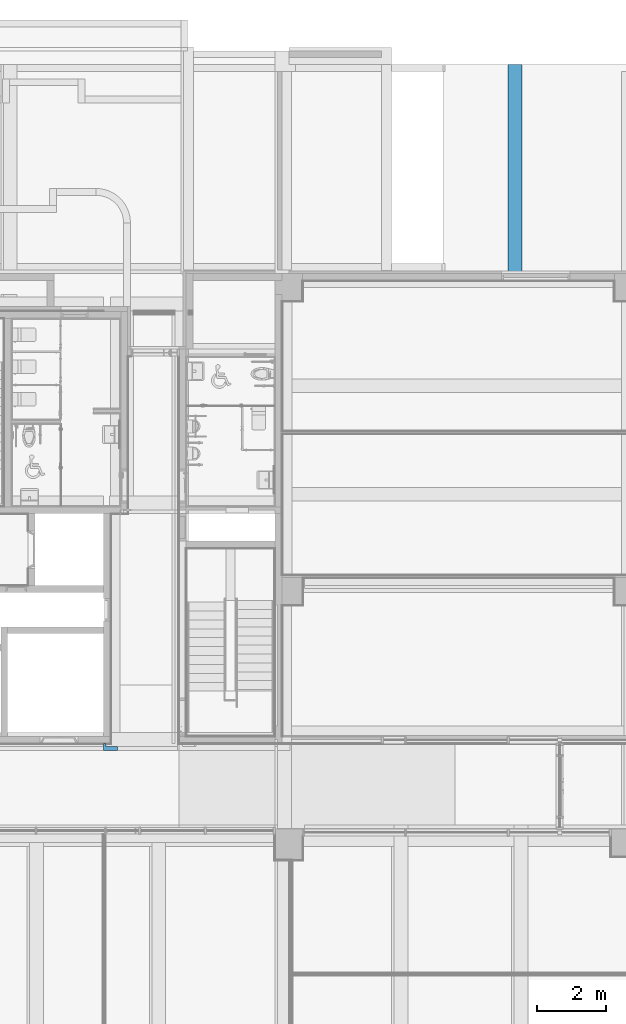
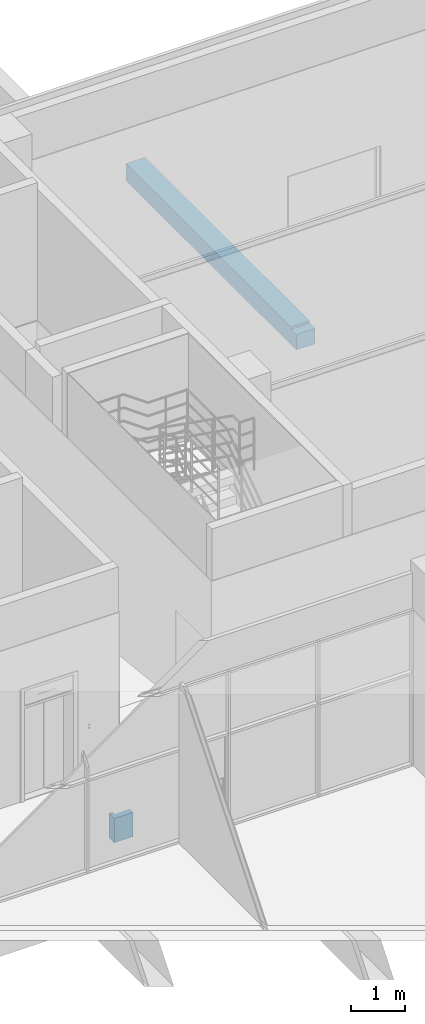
# One storey, part 61 of 100: 2 beams.
"""IFC2X3 building model written with IfcOpenShell, lengths in millimetres."""

from ifc_helpers import new_model, entity, si_unit, converted_unit, derived_unit, direction, frame, origin, place, context, subcontext, project, spatial, faceted_brep, material, type_object, element, save


model = new_model("IFC2X3")

# Units and contexts
model_context = context("Model", 3, precision=0.01, world=origin(), true_north=direction((6.123031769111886e-17, 1.0)))
body_context = subcontext(model_context, "Body", "Model", "MODEL_VIEW")
ifc_project = project(units=[si_unit("LENGTHUNIT", "METRE", prefix="MILLI"), si_unit("AREAUNIT", "SQUARE_METRE"), si_unit("VOLUMEUNIT", "CUBIC_METRE"), converted_unit("PLANEANGLEUNIT", "DEGREE", entity("IfcRatioMeasure", 0.017453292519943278), si_unit("PLANEANGLEUNIT", "RADIAN"), dimensions=[0, 0, 0, 0, 0, 0, 0]), si_unit("MASSUNIT", "GRAM", prefix="KILO"), derived_unit("MASSDENSITYUNIT", [(si_unit("MASSUNIT", "GRAM", prefix="KILO"), 1), (si_unit("LENGTHUNIT", "METRE"), -3)]), derived_unit("MOMENTOFINERTIAUNIT", [(si_unit("LENGTHUNIT", "METRE"), 4)]), si_unit("TIMEUNIT", "SECOND"), si_unit("FREQUENCYUNIT", "HERTZ"), si_unit("THERMODYNAMICTEMPERATUREUNIT", "DEGREE_CELSIUS"), derived_unit("THERMALTRANSMITTANCEUNIT", [(si_unit("MASSUNIT", "GRAM", prefix="KILO"), 1), (si_unit("THERMODYNAMICTEMPERATUREUNIT", "KELVIN"), -1), (si_unit("TIMEUNIT", "SECOND"), -3)]), derived_unit("VOLUMETRICFLOWRATEUNIT", [(si_unit("LENGTHUNIT", "METRE"), 3), (si_unit("TIMEUNIT", "SECOND"), -1)]), derived_unit("MASSFLOWRATEUNIT", [(si_unit("MASSUNIT", "GRAM", prefix="KILO"), 1), (si_unit("TIMEUNIT", "SECOND"), -1)]), derived_unit("ROTATIONALFREQUENCYUNIT", [(si_unit("TIMEUNIT", "SECOND"), -1)]), si_unit("ELECTRICCURRENTUNIT", "AMPERE"), si_unit("ELECTRICVOLTAGEUNIT", "VOLT"), si_unit("POWERUNIT", "WATT"), si_unit("FORCEUNIT", "NEWTON", prefix="KILO"), si_unit("ILLUMINANCEUNIT", "LUX"), si_unit("LUMINOUSFLUXUNIT", "LUMEN"), si_unit("LUMINOUSINTENSITYUNIT", "CANDELA"), derived_unit("USERDEFINED", [(si_unit("MASSUNIT", "GRAM", prefix="KILO"), -1), (si_unit("LENGTHUNIT", "METRE"), -2), (si_unit("TIMEUNIT", "SECOND"), 3), (si_unit("LUMINOUSFLUXUNIT", "LUMEN"), 1)]), derived_unit("SOUNDPOWERUNIT", [(si_unit("MASSUNIT", "GRAM", prefix="KILO"), 1), (si_unit("LENGTHUNIT", "METRE"), 2), (si_unit("TIMEUNIT", "SECOND"), -3)]), derived_unit("SOUNDPRESSUREUNIT", [(si_unit("MASSUNIT", "GRAM", prefix="KILO"), 1), (si_unit("LENGTHUNIT", "METRE"), -1), (si_unit("TIMEUNIT", "SECOND"), -2)]), derived_unit("LINEARVELOCITYUNIT", [(si_unit("LENGTHUNIT", "METRE"), 1), (si_unit("TIMEUNIT", "SECOND"), -1)]), si_unit("PRESSUREUNIT", "PASCAL"), derived_unit("USERDEFINED", [(si_unit("LENGTHUNIT", "METRE"), -2), (si_unit("MASSUNIT", "GRAM", prefix="KILO"), 1), (si_unit("TIMEUNIT", "SECOND"), -2)]), derived_unit("LINEARFORCEUNIT", [(si_unit("MASSUNIT", "GRAM", prefix="KILO"), 1), (si_unit("LENGTHUNIT", "METRE"), 1), (si_unit("TIMEUNIT", "SECOND"), -2), (si_unit("LENGTHUNIT", "METRE"), -1)]), derived_unit("PLANARFORCEUNIT", [(si_unit("MASSUNIT", "GRAM", prefix="KILO"), 1), (si_unit("LENGTHUNIT", "METRE"), 1), (si_unit("TIMEUNIT", "SECOND"), -2), (si_unit("LENGTHUNIT", "METRE"), -2)])], contexts=[model_context])

# Site, building, storey
site_placement = place(None, frame((-14167.972527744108, -657.2125860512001, 0.0)))
site = spatial("IfcSite", under=ifc_project, at=site_placement, Name="Default", CompositionType="ELEMENT")
building_placement = place(site_placement, origin())
building = spatial("IfcBuilding", under=site, at=building_placement, Name="Sample Building", CompositionType="ELEMENT")
storey_placement = place(building_placement, origin())
storey = spatial("IfcBuildingStorey", under=building, at=storey_placement, Name="지상 1층", CompositionType="ELEMENT", Elevation=0.0)

# Beams
ifc_material = material(Name="KBIMS-콘크리트")
beam_type_1 = type_object("IfcBeamType", Name="BM111-철근콘크리트구조 보:BM110-철근 콘크리트구조 보_400 x 850_B1-1WG1", PredefinedType="BEAM", material=ifc_material)
beam_1_placement = place(storey_placement, frame((35767.946448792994, 15357.212604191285, -1400.0), z_axis=(0.0, 0.0, 1.0), x_axis=(0.0, 1.0, 0.0)))
element("IfcBeam", 1, at=beam_1_placement, inside=storey, type_object=beam_type_1, material=ifc_material, Name="BM111-철근콘크리트구조 보:BM110-철근 콘크리트구조 보_400 x 850_B1-1WG1", ObjectType="BM111-철근콘크리트구조 보:BM110-철근 콘크리트구조 보_400 x 850_B1-1WG1", context=body_context, shape_type="Brep", body=[
    faceted_brep([(0.0, -400.0, 550.0), (0.0, -400.0, 0.0), (113.86449812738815, -400.0, 0.0), (113.86449812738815, -400.0, 550.0), (0.0, 0.0, 0.0), (0.0, 0.0, 550.0), (113.8644981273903, -75.29945030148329, 0.0), (113.8644981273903, -75.29945030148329, 550.0), (196.09034288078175, -75.29945030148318, 0.0), (196.09034288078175, 0.0, 0.0), (196.09034288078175, 0.0, 550.0), (196.09034288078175, -75.29945030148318, 550.0)], [[[0, 1, 2, 3]], [[4, 1, 0, 5]], [[6, 7, 3, 2]], [[8, 9, 10, 11]], [[1, 4, 9, 8, 6, 2]], [[4, 5, 10, 9]], [[5, 0, 3, 7, 11, 10]], [[7, 6, 8, 11]]]),
])
beam_type_2 = type_object("IfcBeamType", Name="BM111-철근콘크리트구조 보:BM110-철근 콘크리트구조 보_400 x 600_1B3", PredefinedType="BEAM", material=ifc_material)
beam_2_placement = place(storey_placement, frame((47567.938152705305, 29057.21229514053, -2700.0), z_axis=(0.0, 0.0, 1.0), x_axis=(0.0, 1.0, 0.0)))
element("IfcBeam", 2, at=beam_2_placement, inside=storey, type_object=beam_type_2, material=ifc_material, Name="BM111-철근콘크리트구조 보:BM110-철근 콘크리트구조 보_400 x 600_1B3", ObjectType="BM111-철근콘크리트구조 보:BM110-철근 콘크리트구조 보_400 x 600_1B3", context=body_context, shape_type="Brep", body=[
    faceted_brep([(200.00032189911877, -400.0, 350.0), (0.0, -400.0, 350.0), (0.0, -400.0, 0.0), (6300.000012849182, -400.0, 0.0), (6300.000012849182, -400.0, 400.0), (200.00032189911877, -400.0, 400.0), (0.0, 0.0, 0.0), (6300.000012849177, 0.0, 0.0), (0.0, 0.0, 350.0), (200.00032189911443, 0.0, 350.0), (200.00032189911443, 0.0, 400.0), (6300.000012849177, 0.0, 400.0)], [[[0, 1, 2, 3, 4, 5]], [[2, 6, 7, 3]], [[8, 9, 10, 11, 7, 6]], [[9, 0, 5, 10]], [[0, 9, 8, 1]], [[10, 5, 4, 11]], [[4, 3, 7, 11]], [[6, 2, 1, 8]]]),
])

save(model, "model.ifc")
